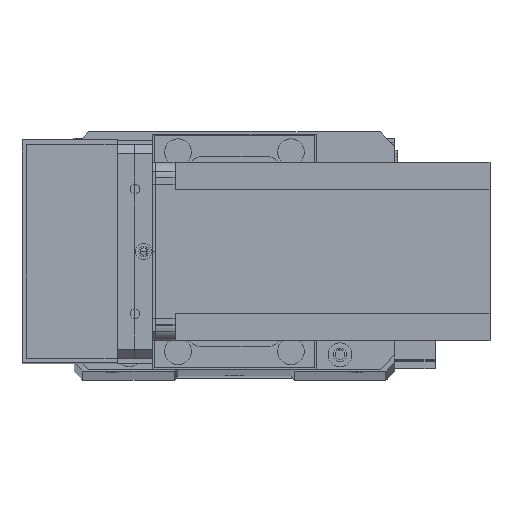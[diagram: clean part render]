
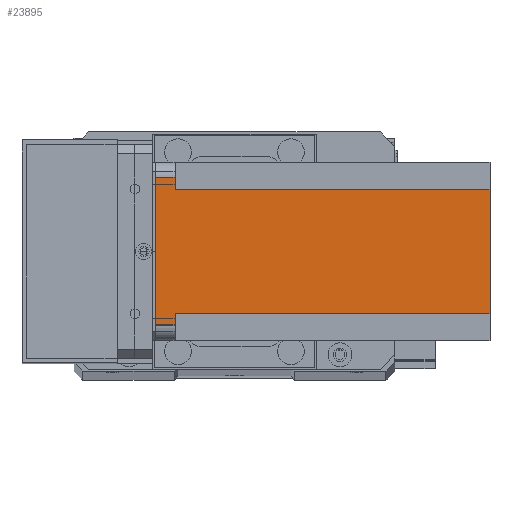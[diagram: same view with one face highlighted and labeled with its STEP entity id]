
A CAD part, top view. The second image highlights one B-rep face of the part: STEP entity #23895.
In plain terms, the highlighted planar face has unit normal (0, 0, 1) as drawn and (1, 0, 0) by its records, which use the part's own axes.
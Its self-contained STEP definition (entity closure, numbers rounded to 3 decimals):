
#84 = LINE ( 'NONE', #3132, #12473 ) ;
#171 = VERTEX_POINT ( 'NONE', #28275 ) ;
#511 = VERTEX_POINT ( 'NONE', #16408 ) ;
#882 = EDGE_CURVE ( 'NONE', #8276, #31909, #24322, .T. ) ;
#947 = DIRECTION ( 'NONE',  ( 0., 1., 0. ) ) ;
#1685 = LINE ( 'NONE', #27551, #14082 ) ;
#3052 = VERTEX_POINT ( 'NONE', #23958 ) ;
#3132 = CARTESIAN_POINT ( 'NONE',  ( 60., 51., -112.5 ) ) ;
#3438 = DIRECTION ( 'NONE',  ( 0., 1., 0. ) ) ;
#3682 = LINE ( 'NONE', #26214, #15316 ) ;
#5855 = LINE ( 'NONE', #7736, #17475 ) ;
#6295 = ORIENTED_EDGE ( 'NONE', *, *, #18790, .T. ) ;
#7009 = EDGE_CURVE ( 'NONE', #15950, #31909, #3682, .T. ) ;
#7736 = CARTESIAN_POINT ( 'NONE',  ( 60., 55., -112.5 ) ) ;
#8107 = VECTOR ( 'NONE', #10970, 1000. ) ;
#8276 = VERTEX_POINT ( 'NONE', #12001 ) ;
#8431 = ORIENTED_EDGE ( 'NONE', *, *, #7009, .T. ) ;
#9923 = ORIENTED_EDGE ( 'NONE', *, *, #14215, .F. ) ;
#10215 = DIRECTION ( 'NONE',  ( 0., 0., 1. ) ) ;
#10970 = DIRECTION ( 'NONE',  ( 0., 0., 1. ) ) ;
#11726 = EDGE_CURVE ( 'NONE', #27784, #171, #16401, .T. ) ;
#12001 = CARTESIAN_POINT ( 'NONE',  ( 60., 9., -6.5 ) ) ;
#12473 = VECTOR ( 'NONE', #17946, 1000. ) ;
#12818 = EDGE_CURVE ( 'NONE', #171, #511, #84, .T. ) ;
#13283 = CARTESIAN_POINT ( 'NONE',  ( 60., 0., -112.5 ) ) ;
#14082 = VECTOR ( 'NONE', #30041, 1000. ) ;
#14215 = EDGE_CURVE ( 'NONE', #3052, #8276, #26996, .T. ) ;
#15316 = VECTOR ( 'NONE', #31176, 1000. ) ;
#15761 = DIRECTION ( 'NONE',  ( 1., 0., 0. ) ) ;
#15791 = EDGE_LOOP ( 'NONE', ( #27749, #19263, #26670, #8431, #27192, #9923, #6295, #27339 ) ) ;
#15796 = CARTESIAN_POINT ( 'NONE',  ( 60., 5., 0. ) ) ;
#15950 = VERTEX_POINT ( 'NONE', #15796 ) ;
#16154 = DIRECTION ( 'NONE',  ( 0., -1., 0. ) ) ;
#16310 = VERTEX_POINT ( 'NONE', #29530 ) ;
#16350 = FACE_OUTER_BOUND ( 'NONE', #15791, .T. ) ;
#16401 = LINE ( 'NONE', #25930, #22158 ) ;
#16408 = CARTESIAN_POINT ( 'NONE',  ( 60., 51., -112.5 ) ) ;
#17475 = VECTOR ( 'NONE', #10215, 1000. ) ;
#17946 = DIRECTION ( 'NONE',  ( 0., 0., -1. ) ) ;
#18349 = VECTOR ( 'NONE', #3438, 1000. ) ;
#18408 = EDGE_CURVE ( 'NONE', #15950, #16310, #24862, .T. ) ;
#18435 = CARTESIAN_POINT ( 'NONE',  ( 60., 9., -112.5 ) ) ;
#18790 = EDGE_CURVE ( 'NONE', #3052, #511, #1685, .T. ) ;
#19263 = ORIENTED_EDGE ( 'NONE', *, *, #24546, .T. ) ;
#20713 = CARTESIAN_POINT ( 'NONE',  ( 60., 0., 0. ) ) ;
#22158 = VECTOR ( 'NONE', #16154, 1000. ) ;
#22693 = CARTESIAN_POINT ( 'NONE',  ( 60., 5., -6.5 ) ) ;
#23736 = CARTESIAN_POINT ( 'NONE',  ( 60., 55., -6.5 ) ) ;
#23895 = ADVANCED_FACE ( 'NONE', ( #16350 ), #27982, .T. ) ;
#23958 = CARTESIAN_POINT ( 'NONE',  ( 60., 9., -112.5 ) ) ;
#24322 = LINE ( 'NONE', #24514, #30870 ) ;
#24514 = CARTESIAN_POINT ( 'NONE',  ( 60., 0., -6.5 ) ) ;
#24546 = EDGE_CURVE ( 'NONE', #27784, #16310, #5855, .T. ) ;
#24862 = LINE ( 'NONE', #20713, #18349 ) ;
#25930 = CARTESIAN_POINT ( 'NONE',  ( 60., 60., -6.5 ) ) ;
#26214 = CARTESIAN_POINT ( 'NONE',  ( 60., 5., -112.5 ) ) ;
#26670 = ORIENTED_EDGE ( 'NONE', *, *, #18408, .F. ) ;
#26996 = LINE ( 'NONE', #18435, #8107 ) ;
#27192 = ORIENTED_EDGE ( 'NONE', *, *, #882, .F. ) ;
#27339 = ORIENTED_EDGE ( 'NONE', *, *, #12818, .F. ) ;
#27475 = DIRECTION ( 'NONE',  ( 0., -1., 0. ) ) ;
#27551 = CARTESIAN_POINT ( 'NONE',  ( 60., 0., -112.5 ) ) ;
#27749 = ORIENTED_EDGE ( 'NONE', *, *, #11726, .F. ) ;
#27784 = VERTEX_POINT ( 'NONE', #23736 ) ;
#27982 = PLANE ( 'NONE',  #31881 ) ;
#28275 = CARTESIAN_POINT ( 'NONE',  ( 60., 51., -6.5 ) ) ;
#29530 = CARTESIAN_POINT ( 'NONE',  ( 60., 55., 0. ) ) ;
#30041 = DIRECTION ( 'NONE',  ( 0., 1., 0. ) ) ;
#30870 = VECTOR ( 'NONE', #27475, 1000. ) ;
#31176 = DIRECTION ( 'NONE',  ( 0., 0., -1. ) ) ;
#31881 = AXIS2_PLACEMENT_3D ( 'NONE', #13283, #15761, #947 ) ;
#31909 = VERTEX_POINT ( 'NONE', #22693 ) ;
